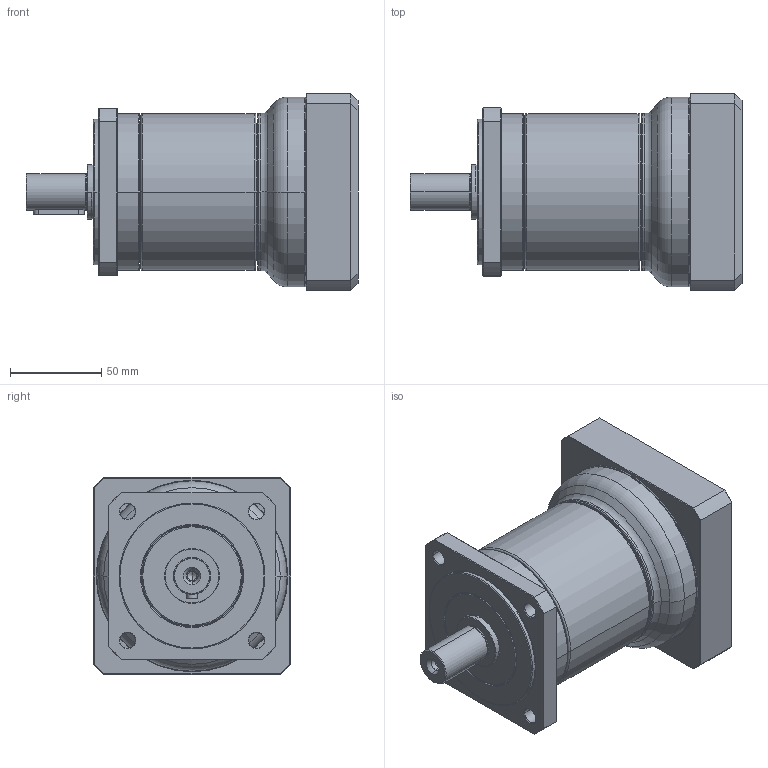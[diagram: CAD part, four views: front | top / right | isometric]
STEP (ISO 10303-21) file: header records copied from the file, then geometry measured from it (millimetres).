
FILE_DESCRIPTION((''),'2;1');
FILE_NAME('PG2-080A_2ST_28_P0411600101_ASM','2016-05-03T',('d01943'),(''),'PRO/ENGINEER BY PARAMETRIC TECHNOLOGY CORPORATION, 2008410','PRO/ENGINEER BY PARAMETRIC TECHNOLOGY CORPORATION, 2008410','');
FILE_SCHEMA(('CONFIG_CONTROL_DESIGN'));
Length unit declared in the file: millimetre
Products named in the file (9): P1326300001; P0251300001; P1324300301; P0350301103; P0941303001; P0503600008; P0411600101; P1702500001; PG2-080A_2ST_28_P0411600101_ASM
Assembly tree (8 placements, depth 2):
  PG2-080A_2ST_28_P0411600101_ASM
    P1326300001
    P0251300001
    P1324300301
    P0350301103
    P0941303001
    P0503600008
    P0411600101
    P1702500001
Bounding box: 182 x 108 x 108 mm (x, y, z)
Volume: 727059.2 mm3; surface area: 170895.6 mm2
Topology: 8 solids, 9 shells, 492 faces, 1084 edges, 626 vertices
Faces by surface type: cone 152, cylinder 141, torus 94, plane 93, bspline 12
Entity records: 18086 total; most frequent: CARTESIAN_POINT 6971, DIRECTION 2528, ORIENTED_EDGE 2112, AXIS2_PLACEMENT_3D 1080, EDGE_CURVE 1056, VERTEX_POINT 626, CIRCLE 583, EDGE_LOOP 562
